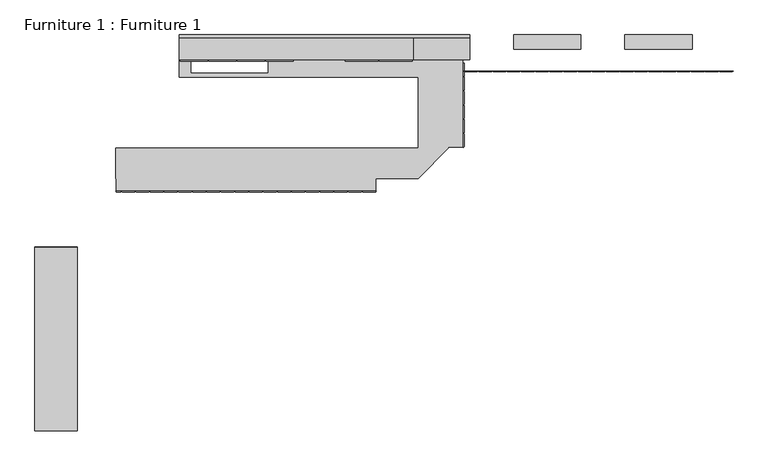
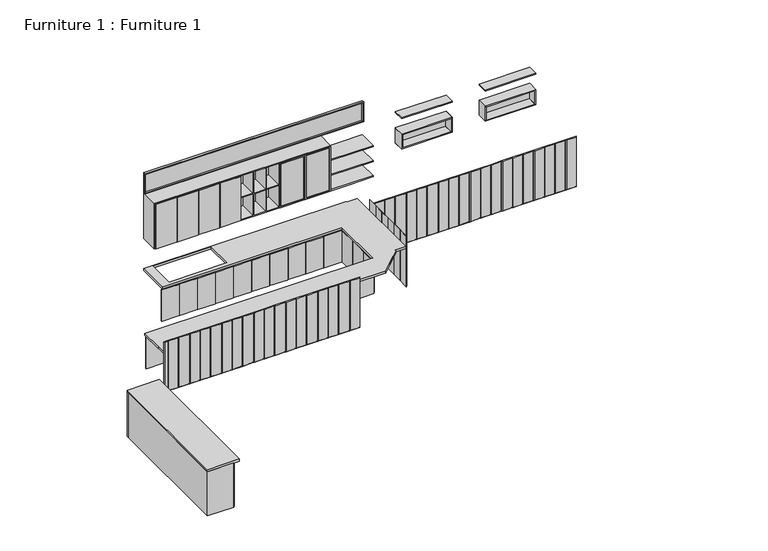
"""IFC4 building model written with IfcOpenShell, lengths in millimetres: furniture geometry, Furniture 1 : Furniture 1."""

from ifc_helpers import new_model, si_unit, frame, origin, origin_with_axes, place, context, project, spatial, polyline, outline, extrude, faceted_brep, source, transform, mapped, element, save


def furniture_1_furniture_1_1562d1c4(model_context):
    return source(origin(), model_context, "Body", "SolidModel", [
        extrude(outline(polyline([(950.6769044, 2299.760891), (4750.6769044, 2299.760891), (4750.6769044, 2289.0537842), (4950.6769044, 2289.0537842), (4950.6769044, 711.3662005), (4750.6769044, 711.3662005), (4750.6769044, 699.760891), (4321.5751071, 270.6590937), (3720.6769044, 270.6590937), (3720.6769044, 100.6590937), (60.6769044, 100.6590937), (60.6769044, 270.6590937), (50.6769044, 270.6590937), (50.6769044, 700.6590937), (4320.6769044, 700.6590937), (4320.6769044, 1699.760891), (950.6769044, 1699.760891), (950.6769044, 2299.760891)]), holes=[polyline([(1121.8993478, 2284.060891), (1121.8993478, 1769.060891), (2201.8993478, 1769.060891), (2201.8993478, 2284.060891), (1121.8993478, 2284.060891)])]), frame((0.0, 0.0, 760.0), z_axis=(0.0, 0.0, 1.0), x_axis=(1.0, 0.0, 0.0)), (0.0, 0.0, 1.0), 40.0),
        extrude(outline(polyline([(5030.6769044, 2289.760891), (970.6769044, 2289.760891), (970.6769044, 2299.760891), (5030.6769044, 2299.760891), (5030.6769044, 2289.760891)])), frame((0.0, 0.0, 2320.0), z_axis=(0.0, 0.0, 1.0), x_axis=(1.0, 0.0, 0.0)), (0.0, 0.0, 1.0), 360.0),
        extrude(outline(polyline([(2300.0, 950.6769044), (2300.0, 5050.6769044), (2700.0, 5050.6769044), (2700.0, 950.6769044), (2300.0, 950.6769044)]), holes=[polyline([(2680.0, 970.6769044), (2680.0, 5030.6769044), (2320.0, 5030.6769044), (2320.0, 970.6769044), (2680.0, 970.6769044)])]), frame((0.0, 2259.760891, 0.0), z_axis=(0.0, 1.0, 0.0), x_axis=(0.0, 0.0, 1.0)), (0.0, 0.0, 1.0), 40.0),
        extrude(outline(polyline([(6600.6769044, 2279.760891), (5690.6769044, 2279.760891), (5690.6769044, 2299.760891), (6600.6769044, 2299.760891), (6600.6769044, 2279.760891)])), frame((0.0, 0.0, 1660.0), z_axis=(0.0, 0.0, 1.0), x_axis=(1.0, 0.0, 0.0)), (0.0, 0.0, 1.0), 260.0),
        extrude(outline(polyline([(8170.6769044, 2279.760891), (7260.6769044, 2279.760891), (7260.6769044, 2299.760891), (8170.6769044, 2299.760891), (8170.6769044, 2279.760891)])), frame((0.0, 0.0, 1660.0), z_axis=(0.0, 0.0, 1.0), x_axis=(1.0, 0.0, 0.0)), (0.0, 0.0, 1.0), 260.0),
        faceted_brep([(5159.9697976, 1779.760891, 10.0), (5159.9697976, 1779.760891, 990.0), (4979.9697976, 1779.760891, 990.0), (4979.9697976, 1779.760891, 10.0), (5169.9697976, 1789.760891, 0.0), (4969.9697976, 1789.760891, 0.0), (4969.9697976, 1789.760891, 1000.0), (5169.9697976, 1789.760891, 1000.0)], [[[0, 1, 2, 3]], [[4, 5, 6, 7]], [[4, 7, 1, 0]], [[7, 6, 2, 1]], [[6, 5, 3, 2]], [[5, 4, 0, 3]]]),
        faceted_brep([(5359.9697976, 1779.760891, 10.0), (5359.9697976, 1779.760891, 990.0), (5179.9697976, 1779.760891, 990.0), (5179.9697976, 1779.760891, 10.0), (5369.9697976, 1789.760891, 0.0), (5169.9697976, 1789.760891, 0.0), (5169.9697976, 1789.760891, 1000.0), (5369.9697976, 1789.760891, 1000.0)], [[[0, 1, 2, 3]], [[4, 5, 6, 7]], [[4, 7, 1, 0]], [[7, 6, 2, 1]], [[6, 5, 3, 2]], [[5, 4, 0, 3]]]),
        faceted_brep([(5559.9697976, 1779.760891, 10.0), (5559.9697976, 1779.760891, 990.0), (5379.9697976, 1779.760891, 990.0), (5379.9697976, 1779.760891, 10.0), (5569.9697976, 1789.760891, 0.0), (5369.9697976, 1789.760891, 0.0), (5369.9697976, 1789.760891, 1000.0), (5569.9697976, 1789.760891, 1000.0)], [[[0, 1, 2, 3]], [[4, 5, 6, 7]], [[4, 7, 1, 0]], [[7, 6, 2, 1]], [[6, 5, 3, 2]], [[5, 4, 0, 3]]]),
        faceted_brep([(5759.9697976, 1779.760891, 10.0), (5759.9697976, 1779.760891, 990.0), (5579.9697976, 1779.760891, 990.0), (5579.9697976, 1779.760891, 10.0), (5769.9697976, 1789.760891, 0.0), (5569.9697976, 1789.760891, 0.0), (5569.9697976, 1789.760891, 1000.0), (5769.9697976, 1789.760891, 1000.0)], [[[0, 1, 2, 3]], [[4, 5, 6, 7]], [[4, 7, 1, 0]], [[7, 6, 2, 1]], [[6, 5, 3, 2]], [[5, 4, 0, 3]]]),
        faceted_brep([(5959.9697976, 1779.760891, 10.0), (5959.9697976, 1779.760891, 990.0), (5779.9697976, 1779.760891, 990.0), (5779.9697976, 1779.760891, 10.0), (5969.9697976, 1789.760891, 0.0), (5769.9697976, 1789.760891, 0.0), (5769.9697976, 1789.760891, 1000.0), (5969.9697976, 1789.760891, 1000.0)], [[[0, 1, 2, 3]], [[4, 5, 6, 7]], [[4, 7, 1, 0]], [[7, 6, 2, 1]], [[6, 5, 3, 2]], [[5, 4, 0, 3]]]),
        faceted_brep([(6159.9697976, 1779.760891, 10.0), (6159.9697976, 1779.760891, 990.0), (5979.9697976, 1779.760891, 990.0), (5979.9697976, 1779.760891, 10.0), (6169.9697976, 1789.760891, 0.0), (5969.9697976, 1789.760891, 0.0), (5969.9697976, 1789.760891, 1000.0), (6169.9697976, 1789.760891, 1000.0)], [[[0, 1, 2, 3]], [[4, 5, 6, 7]], [[4, 7, 1, 0]], [[7, 6, 2, 1]], [[6, 5, 3, 2]], [[5, 4, 0, 3]]]),
        faceted_brep([(6359.9697976, 1779.760891, 10.0), (6359.9697976, 1779.760891, 990.0), (6179.9697976, 1779.760891, 990.0), (6179.9697976, 1779.760891, 10.0), (6369.9697976, 1789.760891, 0.0), (6169.9697976, 1789.760891, 0.0), (6169.9697976, 1789.760891, 1000.0), (6369.9697976, 1789.760891, 1000.0)], [[[0, 1, 2, 3]], [[4, 5, 6, 7]], [[4, 7, 1, 0]], [[7, 6, 2, 1]], [[6, 5, 3, 2]], [[5, 4, 0, 3]]]),
        faceted_brep([(6559.9697976, 1779.760891, 10.0), (6559.9697976, 1779.760891, 990.0), (6379.9697976, 1779.760891, 990.0), (6379.9697976, 1779.760891, 10.0), (6569.9697976, 1789.760891, 0.0), (6369.9697976, 1789.760891, 0.0), (6369.9697976, 1789.760891, 1000.0), (6569.9697976, 1789.760891, 1000.0)], [[[0, 1, 2, 3]], [[4, 5, 6, 7]], [[4, 7, 1, 0]], [[7, 6, 2, 1]], [[6, 5, 3, 2]], [[5, 4, 0, 3]]]),
        faceted_brep([(6759.9697976, 1779.760891, 10.0), (6759.9697976, 1779.760891, 990.0), (6579.9697976, 1779.760891, 990.0), (6579.9697976, 1779.760891, 10.0), (6769.9697976, 1789.760891, 0.0), (6569.9697976, 1789.760891, 0.0), (6569.9697976, 1789.760891, 1000.0), (6769.9697976, 1789.760891, 1000.0)], [[[0, 1, 2, 3]], [[4, 5, 6, 7]], [[4, 7, 1, 0]], [[7, 6, 2, 1]], [[6, 5, 3, 2]], [[5, 4, 0, 3]]]),
        faceted_brep([(6959.9697976, 1779.760891, 10.0), (6959.9697976, 1779.760891, 990.0), (6779.9697976, 1779.760891, 990.0), (6779.9697976, 1779.760891, 10.0), (6969.9697976, 1789.760891, 0.0), (6769.9697976, 1789.760891, 0.0), (6769.9697976, 1789.760891, 1000.0), (6969.9697976, 1789.760891, 1000.0)], [[[0, 1, 2, 3]], [[4, 5, 6, 7]], [[4, 7, 1, 0]], [[7, 6, 2, 1]], [[6, 5, 3, 2]], [[5, 4, 0, 3]]]),
        faceted_brep([(7159.9697976, 1779.760891, 10.0), (7159.9697976, 1779.760891, 990.0), (6979.9697976, 1779.760891, 990.0), (6979.9697976, 1779.760891, 10.0), (7169.9697976, 1789.760891, 0.0), (6969.9697976, 1789.760891, 0.0), (6969.9697976, 1789.760891, 1000.0), (7169.9697976, 1789.760891, 1000.0)], [[[0, 1, 2, 3]], [[4, 5, 6, 7]], [[4, 7, 1, 0]], [[7, 6, 2, 1]], [[6, 5, 3, 2]], [[5, 4, 0, 3]]]),
        faceted_brep([(7359.9697976, 1779.760891, 10.0), (7359.9697976, 1779.760891, 990.0), (7179.9697976, 1779.760891, 990.0), (7179.9697976, 1779.760891, 10.0), (7369.9697976, 1789.760891, 0.0), (7169.9697976, 1789.760891, 0.0), (7169.9697976, 1789.760891, 1000.0), (7369.9697976, 1789.760891, 1000.0)], [[[0, 1, 2, 3]], [[4, 5, 6, 7]], [[4, 7, 1, 0]], [[7, 6, 2, 1]], [[6, 5, 3, 2]], [[5, 4, 0, 3]]]),
        faceted_brep([(7559.9697976, 1779.760891, 10.0), (7559.9697976, 1779.760891, 990.0), (7379.9697976, 1779.760891, 990.0), (7379.9697976, 1779.760891, 10.0), (7569.9697976, 1789.760891, 0.0), (7369.9697976, 1789.760891, 0.0), (7369.9697976, 1789.760891, 1000.0), (7569.9697976, 1789.760891, 1000.0)], [[[0, 1, 2, 3]], [[4, 5, 6, 7]], [[4, 7, 1, 0]], [[7, 6, 2, 1]], [[6, 5, 3, 2]], [[5, 4, 0, 3]]]),
        faceted_brep([(7759.9697976, 1779.760891, 10.0), (7759.9697976, 1779.760891, 990.0), (7579.9697976, 1779.760891, 990.0), (7579.9697976, 1779.760891, 10.0), (7769.9697976, 1789.760891, 0.0), (7569.9697976, 1789.760891, 0.0), (7569.9697976, 1789.760891, 1000.0), (7769.9697976, 1789.760891, 1000.0)], [[[0, 1, 2, 3]], [[4, 5, 6, 7]], [[4, 7, 1, 0]], [[7, 6, 2, 1]], [[6, 5, 3, 2]], [[5, 4, 0, 3]]]),
        faceted_brep([(7959.9697976, 1779.760891, 10.0), (7959.9697976, 1779.760891, 990.0), (7779.9697976, 1779.760891, 990.0), (7779.9697976, 1779.760891, 10.0), (7969.9697976, 1789.760891, 0.0), (7769.9697976, 1789.760891, 0.0), (7769.9697976, 1789.760891, 1000.0), (7969.9697976, 1789.760891, 1000.0)], [[[0, 1, 2, 3]], [[4, 5, 6, 7]], [[4, 7, 1, 0]], [[7, 6, 2, 1]], [[6, 5, 3, 2]], [[5, 4, 0, 3]]]),
        faceted_brep([(8159.9697976, 1779.760891, 10.0), (8159.9697976, 1779.760891, 990.0), (7979.9697976, 1779.760891, 990.0), (7979.9697976, 1779.760891, 10.0), (8169.9697976, 1789.760891, 0.0), (7969.9697976, 1789.760891, 0.0), (7969.9697976, 1789.760891, 1000.0), (8169.9697976, 1789.760891, 1000.0)], [[[0, 1, 2, 3]], [[4, 5, 6, 7]], [[4, 7, 1, 0]], [[7, 6, 2, 1]], [[6, 5, 3, 2]], [[5, 4, 0, 3]]]),
        faceted_brep([(8359.9697976, 1779.760891, 10.0), (8359.9697976, 1779.760891, 990.0), (8179.9697976, 1779.760891, 990.0), (8179.9697976, 1779.760891, 10.0), (8369.9697976, 1789.760891, 0.0), (8169.9697976, 1789.760891, 0.0), (8169.9697976, 1789.760891, 1000.0), (8369.9697976, 1789.760891, 1000.0)], [[[0, 1, 2, 3]], [[4, 5, 6, 7]], [[4, 7, 1, 0]], [[7, 6, 2, 1]], [[6, 5, 3, 2]], [[5, 4, 0, 3]]]),
        faceted_brep([(8559.9697976, 1779.760891, 10.0), (8559.9697976, 1779.760891, 990.0), (8379.9697976, 1779.760891, 990.0), (8379.9697976, 1779.760891, 10.0), (8569.9697976, 1789.760891, 0.0), (8369.9697976, 1789.760891, 0.0), (8369.9697976, 1789.760891, 1000.0), (8569.9697976, 1789.760891, 1000.0)], [[[0, 1, 2, 3]], [[4, 5, 6, 7]], [[4, 7, 1, 0]], [[7, 6, 2, 1]], [[6, 5, 3, 2]], [[5, 4, 0, 3]]]),
        extrude(outline(polyline([(1660.0, 5691.3840111), (1640.0, 5671.3840111), (1640.0, 6619.9697976), (1660.0, 6599.9697976), (1660.0, 5691.3840111)])), frame((0.0, 2099.760891, 0.0), z_axis=(0.0, 1.0, 0.0), x_axis=(0.0, 0.0, 1.0)), (0.0, 0.0, 1.0), 200.0),
        extrude(outline(polyline([(1640.7071068, 5670.6769044), (1660.7071068, 5690.6769044), (1919.2928932, 5690.6769044), (1939.2928932, 5670.6769044), (1640.7071068, 5670.6769044)])), frame((0.0, 2099.760891, 0.0), z_axis=(0.0, 1.0, 0.0), x_axis=(0.0, 0.0, 1.0)), (0.0, 0.0, 1.0), 200.0),
        extrude(outline(polyline([(1640.7071068, 6620.6769044), (1939.2928932, 6620.6769044), (1919.2928932, 6600.6769044), (1660.7071068, 6600.6769044), (1640.7071068, 6620.6769044)])), frame((0.0, 2099.760891, 0.0), z_axis=(0.0, 1.0, 0.0), x_axis=(0.0, 0.0, 1.0)), (0.0, 0.0, 1.0), 200.0),
        extrude(outline(polyline([(1920.0, 5691.3840111), (1920.0, 6599.9697976), (1940.0, 6619.9697976), (1940.0, 5671.3840111), (1920.0, 5691.3840111)])), frame((0.0, 2099.760891, 0.0), z_axis=(0.0, 1.0, 0.0), x_axis=(0.0, 0.0, 1.0)), (0.0, 0.0, 1.0), 200.0),
        extrude(outline(polyline([(6620.6769044, 2099.760891), (5670.6769044, 2099.760891), (5670.6769044, 2299.760891), (6620.6769044, 2299.760891), (6620.6769044, 2099.760891)])), frame((0.0, 0.0, 2240.0), z_axis=(0.0, 0.0, 1.0), x_axis=(1.0, 0.0, 0.0)), (0.0, 0.0, 1.0), 20.0),
        extrude(outline(polyline([(1660.0, 7261.3840111), (1640.0, 7241.3840111), (1640.0, 8189.9697976), (1660.0, 8169.9697976), (1660.0, 7261.3840111)])), frame((0.0, 2099.760891, 0.0), z_axis=(0.0, 1.0, 0.0), x_axis=(0.0, 0.0, 1.0)), (0.0, 0.0, 1.0), 200.0),
        extrude(outline(polyline([(1640.7071068, 7240.6769044), (1660.7071068, 7260.6769044), (1919.2928932, 7260.6769044), (1939.2928932, 7240.6769044), (1640.7071068, 7240.6769044)])), frame((0.0, 2099.760891, 0.0), z_axis=(0.0, 1.0, 0.0), x_axis=(0.0, 0.0, 1.0)), (0.0, 0.0, 1.0), 200.0),
        extrude(outline(polyline([(1640.7071068, 8190.6769044), (1939.2928932, 8190.6769044), (1919.2928932, 8170.6769044), (1660.7071068, 8170.6769044), (1640.7071068, 8190.6769044)])), frame((0.0, 2099.760891, 0.0), z_axis=(0.0, 1.0, 0.0), x_axis=(0.0, 0.0, 1.0)), (0.0, 0.0, 1.0), 200.0),
        extrude(outline(polyline([(1920.0, 7261.3840111), (1920.0, 8169.9697976), (1940.0, 8189.9697976), (1940.0, 7241.3840111), (1920.0, 7261.3840111)])), frame((0.0, 2099.760891, 0.0), z_axis=(0.0, 1.0, 0.0), x_axis=(0.0, 0.0, 1.0)), (0.0, 0.0, 1.0), 200.0),
        extrude(outline(polyline([(8190.6769044, 2099.760891), (7240.6769044, 2099.760891), (7240.6769044, 2299.760891), (8190.6769044, 2299.760891), (8190.6769044, 2099.760891)])), frame((0.0, 0.0, 2240.0), z_axis=(0.0, 0.0, 1.0), x_axis=(1.0, 0.0, 0.0)), (0.0, 0.0, 1.0), 20.0),
        extrude(outline(polyline([(4330.6769044, 1359.760891), (4330.6769044, 1699.760891), (4350.6769044, 1699.760891), (4350.6769044, 1359.760891), (4330.6769044, 1359.760891)])), frame((0.0, 0.0, 110.0), z_axis=(0.0, 0.0, 1.0), x_axis=(1.0, 0.0, 0.0)), (0.0, 0.0, 1.0), 620.0),
        extrude(outline(polyline([(4330.6769044, 700.6590937), (4330.6769044, 999.760891), (4350.6769044, 999.760891), (4350.6769044, 700.6590937), (4330.6769044, 700.6590937)])), frame((0.0, 0.0, 110.0), z_axis=(0.0, 0.0, 1.0), x_axis=(1.0, 0.0, 0.0)), (0.0, 0.0, 1.0), 620.0),
        extrude(outline(polyline([(4330.6769044, 1009.760891), (4330.6769044, 1349.760891), (4350.6769044, 1349.760891), (4350.6769044, 1009.760891), (4330.6769044, 1009.760891)])), frame((0.0, 0.0, 110.0), z_axis=(0.0, 0.0, 1.0), x_axis=(1.0, 0.0, 0.0)), (0.0, 0.0, 1.0), 620.0),
        extrude(outline(polyline([(60.6769044, 690.6590937), (388.3692121, 690.6590937), (388.3692121, 670.6590937), (60.6769044, 670.6590937), (60.6769044, 690.6590937)])), frame((0.0, 0.0, 110.0), z_axis=(0.0, 0.0, 1.0), x_axis=(1.0, 0.0, 0.0)), (0.0, 0.0, 1.0), 620.0),
        extrude(outline(polyline([(4002.9845967, 690.6590937), (4320.6769044, 690.6590937), (4320.6769044, 670.6590937), (4002.9845967, 670.6590937), (4002.9845967, 690.6590937)])), frame((0.0, 0.0, 110.0), z_axis=(0.0, 0.0, 1.0), x_axis=(1.0, 0.0, 0.0)), (0.0, 0.0, 1.0), 620.0),
        extrude(outline(polyline([(3347.5999813, 690.6590937), (3665.292289, 690.6590937), (3665.292289, 670.6590937), (3347.5999813, 670.6590937), (3347.5999813, 690.6590937)])), frame((0.0, 0.0, 110.0), z_axis=(0.0, 0.0, 1.0), x_axis=(1.0, 0.0, 0.0)), (0.0, 0.0, 1.0), 620.0),
        extrude(outline(polyline([(3675.292289, 690.6590937), (3992.9845967, 690.6590937), (3992.9845967, 670.6590937), (3675.292289, 670.6590937), (3675.292289, 690.6590937)])), frame((0.0, 0.0, 110.0), z_axis=(0.0, 0.0, 1.0), x_axis=(1.0, 0.0, 0.0)), (0.0, 0.0, 1.0), 620.0),
        extrude(outline(polyline([(3019.9076736, 690.6590937), (3337.5999813, 690.6590937), (3337.5999813, 670.6590937), (3019.9076736, 670.6590937), (3019.9076736, 690.6590937)])), frame((0.0, 0.0, 110.0), z_axis=(0.0, 0.0, 1.0), x_axis=(1.0, 0.0, 0.0)), (0.0, 0.0, 1.0), 620.0),
        extrude(outline(polyline([(2692.2153659, 690.6590937), (3009.9076736, 690.6590937), (3009.9076736, 670.6590937), (2692.2153659, 670.6590937), (2692.2153659, 690.6590937)])), frame((0.0, 0.0, 110.0), z_axis=(0.0, 0.0, 1.0), x_axis=(1.0, 0.0, 0.0)), (0.0, 0.0, 1.0), 620.0),
        extrude(outline(polyline([(2364.5230582, 690.6590937), (2682.2153659, 690.6590937), (2682.2153659, 670.6590937), (2364.5230582, 670.6590937), (2364.5230582, 690.6590937)])), frame((0.0, 0.0, 110.0), z_axis=(0.0, 0.0, 1.0), x_axis=(1.0, 0.0, 0.0)), (0.0, 0.0, 1.0), 620.0),
        extrude(outline(polyline([(2036.8307505, 690.6590937), (2354.5230582, 690.6590937), (2354.5230582, 670.6590937), (2036.8307505, 670.6590937), (2036.8307505, 690.6590937)])), frame((0.0, 0.0, 110.0), z_axis=(0.0, 0.0, 1.0), x_axis=(1.0, 0.0, 0.0)), (0.0, 0.0, 1.0), 620.0),
        extrude(outline(polyline([(1709.1384428, 690.6590937), (2026.8307505, 690.6590937), (2026.8307505, 670.6590937), (1709.1384428, 670.6590937), (1709.1384428, 690.6590937)])), frame((0.0, 0.0, 110.0), z_axis=(0.0, 0.0, 1.0), x_axis=(1.0, 0.0, 0.0)), (0.0, 0.0, 1.0), 620.0),
        extrude(outline(polyline([(1381.4461351, 690.6590937), (1699.1384428, 690.6590937), (1699.1384428, 670.6590937), (1381.4461351, 670.6590937), (1381.4461351, 690.6590937)])), frame((0.0, 0.0, 110.0), z_axis=(0.0, 0.0, 1.0), x_axis=(1.0, 0.0, 0.0)), (0.0, 0.0, 1.0), 620.0),
        extrude(outline(polyline([(1053.7538274, 690.6590937), (1371.4461351, 690.6590937), (1371.4461351, 670.6590937), (1053.7538274, 670.6590937), (1053.7538274, 690.6590937)])), frame((0.0, 0.0, 110.0), z_axis=(0.0, 0.0, 1.0), x_axis=(1.0, 0.0, 0.0)), (0.0, 0.0, 1.0), 620.0),
        extrude(outline(polyline([(726.0615197, 690.6590937), (1043.7538274, 690.6590937), (1043.7538274, 670.6590937), (726.0615197, 670.6590937), (726.0615197, 690.6590937)])), frame((0.0, 0.0, 110.0), z_axis=(0.0, 0.0, 1.0), x_axis=(1.0, 0.0, 0.0)), (0.0, 0.0, 1.0), 620.0),
        extrude(outline(polyline([(398.3692121, 690.6590937), (716.0615197, 690.6590937), (716.0615197, 670.6590937), (398.3692121, 670.6590937), (398.3692121, 690.6590937)])), frame((0.0, 0.0, 110.0), z_axis=(0.0, 0.0, 1.0), x_axis=(1.0, 0.0, 0.0)), (0.0, 0.0, 1.0), 620.0),
        extrude(outline(polyline([(1277.6769044, 1709.760891), (950.6769044, 1709.760891), (950.6769044, 1729.760891), (1277.6769044, 1729.760891), (1277.6769044, 1709.760891)])), frame((0.0, 0.0, 110.0), z_axis=(0.0, 0.0, 1.0), x_axis=(1.0, 0.0, 0.0)), (0.0, 0.0, 1.0), 620.0),
        extrude(outline(polyline([(4320.6769044, 1709.760891), (3983.6769044, 1709.760891), (3983.6769044, 1729.760891), (4320.6769044, 1729.760891), (4320.6769044, 1709.760891)])), frame((0.0, 0.0, 110.0), z_axis=(0.0, 0.0, 1.0), x_axis=(1.0, 0.0, 0.0)), (0.0, 0.0, 1.0), 620.0),
        extrude(outline(polyline([(1614.6769044, 1709.760891), (1287.6769044, 1709.760891), (1287.6769044, 1729.760891), (1614.6769044, 1729.760891), (1614.6769044, 1709.760891)])), frame((0.0, 0.0, 110.0), z_axis=(0.0, 0.0, 1.0), x_axis=(1.0, 0.0, 0.0)), (0.0, 0.0, 1.0), 620.0),
        extrude(outline(polyline([(1951.6769044, 1709.760891), (1624.6769044, 1709.760891), (1624.6769044, 1729.760891), (1951.6769044, 1729.760891), (1951.6769044, 1709.760891)])), frame((0.0, 0.0, 110.0), z_axis=(0.0, 0.0, 1.0), x_axis=(1.0, 0.0, 0.0)), (0.0, 0.0, 1.0), 620.0),
        extrude(outline(polyline([(2288.6769044, 1709.760891), (1961.6769044, 1709.760891), (1961.6769044, 1729.760891), (2288.6769044, 1729.760891), (2288.6769044, 1709.760891)])), frame((0.0, 0.0, 110.0), z_axis=(0.0, 0.0, 1.0), x_axis=(1.0, 0.0, 0.0)), (0.0, 0.0, 1.0), 620.0),
        extrude(outline(polyline([(2625.6769044, 1709.760891), (2298.6769044, 1709.760891), (2298.6769044, 1729.760891), (2625.6769044, 1729.760891), (2625.6769044, 1709.760891)])), frame((0.0, 0.0, 110.0), z_axis=(0.0, 0.0, 1.0), x_axis=(1.0, 0.0, 0.0)), (0.0, 0.0, 1.0), 620.0),
        extrude(outline(polyline([(2962.6769044, 1709.760891), (2635.6769044, 1709.760891), (2635.6769044, 1729.760891), (2962.6769044, 1729.760891), (2962.6769044, 1709.760891)])), frame((0.0, 0.0, 110.0), z_axis=(0.0, 0.0, 1.0), x_axis=(1.0, 0.0, 0.0)), (0.0, 0.0, 1.0), 620.0),
        extrude(outline(polyline([(3309.6769044, 1709.760891), (2972.6769044, 1709.760891), (2972.6769044, 1729.760891), (3309.6769044, 1729.760891), (3309.6769044, 1709.760891)])), frame((0.0, 0.0, 110.0), z_axis=(0.0, 0.0, 1.0), x_axis=(1.0, 0.0, 0.0)), (0.0, 0.0, 1.0), 620.0),
        extrude(outline(polyline([(3973.6769044, 1709.760891), (3646.6769044, 1709.760891), (3646.6769044, 1729.760891), (3973.6769044, 1729.760891), (3973.6769044, 1709.760891)])), frame((0.0, 0.0, 110.0), z_axis=(0.0, 0.0, 1.0), x_axis=(1.0, 0.0, 0.0)), (0.0, 0.0, 1.0), 620.0),
        extrude(outline(polyline([(3636.6769044, 1709.760891), (3319.6769044, 1709.760891), (3319.6769044, 1729.760891), (3636.6769044, 1729.760891), (3636.6769044, 1709.760891)])), frame((0.0, 0.0, 110.0), z_axis=(0.0, 0.0, 1.0), x_axis=(1.0, 0.0, 0.0)), (0.0, 0.0, 1.0), 620.0),
        faceted_brep([(120.6769044, 80.6590937, 10.0), (120.6769044, 80.6590937, 990.0), (60.6769044, 80.6590937, 990.0), (60.6769044, 80.6590937, 10.0), (130.6769044, 90.6590937, 0.0), (50.6769044, 90.6590937, 0.0), (50.6769044, 90.6590937, 1000.0), (130.6769044, 90.6590937, 1000.0)], [[[0, 1, 2, 3]], [[4, 5, 6, 7]], [[4, 7, 1, 0]], [[7, 6, 2, 1]], [[6, 5, 3, 2]], [[5, 4, 0, 3]]]),
        faceted_brep([(320.6769044, 80.6590937, 10.0), (320.6769044, 80.6590937, 990.0), (140.6769044, 80.6590937, 990.0), (140.6769044, 80.6590937, 10.0), (330.6769044, 90.6590937, 0.0), (130.6769044, 90.6590937, 0.0), (130.6769044, 90.6590937, 1000.0), (330.6769044, 90.6590937, 1000.0)], [[[0, 1, 2, 3]], [[4, 5, 6, 7]], [[4, 7, 1, 0]], [[7, 6, 2, 1]], [[6, 5, 3, 2]], [[5, 4, 0, 3]]]),
        faceted_brep([(520.6769044, 80.6590937, 10.0), (520.6769044, 80.6590937, 990.0), (340.6769044, 80.6590937, 990.0), (340.6769044, 80.6590937, 10.0), (530.6769044, 90.6590937, 0.0), (330.6769044, 90.6590937, 0.0), (330.6769044, 90.6590937, 1000.0), (530.6769044, 90.6590937, 1000.0)], [[[0, 1, 2, 3]], [[4, 5, 6, 7]], [[4, 7, 1, 0]], [[7, 6, 2, 1]], [[6, 5, 3, 2]], [[5, 4, 0, 3]]]),
        faceted_brep([(720.6769044, 80.6590937, 10.0), (720.6769044, 80.6590937, 990.0), (540.6769044, 80.6590937, 990.0), (540.6769044, 80.6590937, 10.0), (730.6769044, 90.6590937, 0.0), (530.6769044, 90.6590937, 0.0), (530.6769044, 90.6590937, 1000.0), (730.6769044, 90.6590937, 1000.0)], [[[0, 1, 2, 3]], [[4, 5, 6, 7]], [[4, 7, 1, 0]], [[7, 6, 2, 1]], [[6, 5, 3, 2]], [[5, 4, 0, 3]]]),
        faceted_brep([(920.6769044, 80.6590937, 10.0), (920.6769044, 80.6590937, 990.0), (740.6769044, 80.6590937, 990.0), (740.6769044, 80.6590937, 10.0), (930.6769044, 90.6590937, 0.0), (730.6769044, 90.6590937, 0.0), (730.6769044, 90.6590937, 1000.0), (930.6769044, 90.6590937, 1000.0)], [[[0, 1, 2, 3]], [[4, 5, 6, 7]], [[4, 7, 1, 0]], [[7, 6, 2, 1]], [[6, 5, 3, 2]], [[5, 4, 0, 3]]]),
        faceted_brep([(1120.6769044, 80.6590937, 10.0), (1120.6769044, 80.6590937, 990.0), (940.6769044, 80.6590937, 990.0), (940.6769044, 80.6590937, 10.0), (1130.6769044, 90.6590937, 0.0), (930.6769044, 90.6590937, 0.0), (930.6769044, 90.6590937, 1000.0), (1130.6769044, 90.6590937, 1000.0)], [[[0, 1, 2, 3]], [[4, 5, 6, 7]], [[4, 7, 1, 0]], [[7, 6, 2, 1]], [[6, 5, 3, 2]], [[5, 4, 0, 3]]]),
        faceted_brep([(1320.6769044, 80.6590937, 10.0), (1320.6769044, 80.6590937, 990.0), (1140.6769044, 80.6590937, 990.0), (1140.6769044, 80.6590937, 10.0), (1330.6769044, 90.6590937, 0.0), (1130.6769044, 90.6590937, 0.0), (1130.6769044, 90.6590937, 1000.0), (1330.6769044, 90.6590937, 1000.0)], [[[0, 1, 2, 3]], [[4, 5, 6, 7]], [[4, 7, 1, 0]], [[7, 6, 2, 1]], [[6, 5, 3, 2]], [[5, 4, 0, 3]]]),
        faceted_brep([(1520.6769044, 80.6590937, 10.0), (1520.6769044, 80.6590937, 990.0), (1340.6769044, 80.6590937, 990.0), (1340.6769044, 80.6590937, 10.0), (1530.6769044, 90.6590937, 0.0), (1330.6769044, 90.6590937, 0.0), (1330.6769044, 90.6590937, 1000.0), (1530.6769044, 90.6590937, 1000.0)], [[[0, 1, 2, 3]], [[4, 5, 6, 7]], [[4, 7, 1, 0]], [[7, 6, 2, 1]], [[6, 5, 3, 2]], [[5, 4, 0, 3]]]),
        faceted_brep([(1720.6769044, 80.6590937, 10.0), (1720.6769044, 80.6590937, 990.0), (1540.6769044, 80.6590937, 990.0), (1540.6769044, 80.6590937, 10.0), (1730.6769044, 90.6590937, 0.0), (1530.6769044, 90.6590937, 0.0), (1530.6769044, 90.6590937, 1000.0), (1730.6769044, 90.6590937, 1000.0)], [[[0, 1, 2, 3]], [[4, 5, 6, 7]], [[4, 7, 1, 0]], [[7, 6, 2, 1]], [[6, 5, 3, 2]], [[5, 4, 0, 3]]]),
        faceted_brep([(1920.6769044, 80.6590937, 10.0), (1920.6769044, 80.6590937, 990.0), (1740.6769044, 80.6590937, 990.0), (1740.6769044, 80.6590937, 10.0), (1930.6769044, 90.6590937, 0.0), (1730.6769044, 90.6590937, 0.0), (1730.6769044, 90.6590937, 1000.0), (1930.6769044, 90.6590937, 1000.0)], [[[0, 1, 2, 3]], [[4, 5, 6, 7]], [[4, 7, 1, 0]], [[7, 6, 2, 1]], [[6, 5, 3, 2]], [[5, 4, 0, 3]]]),
        faceted_brep([(2120.6769044, 80.6590937, 10.0), (2120.6769044, 80.6590937, 990.0), (1940.6769044, 80.6590937, 990.0), (1940.6769044, 80.6590937, 10.0), (2130.6769044, 90.6590937, 0.0), (1930.6769044, 90.6590937, 0.0), (1930.6769044, 90.6590937, 1000.0), (2130.6769044, 90.6590937, 1000.0)], [[[0, 1, 2, 3]], [[4, 5, 6, 7]], [[4, 7, 1, 0]], [[7, 6, 2, 1]], [[6, 5, 3, 2]], [[5, 4, 0, 3]]]),
        faceted_brep([(2320.6769044, 80.6590937, 10.0), (2320.6769044, 80.6590937, 990.0), (2140.6769044, 80.6590937, 990.0), (2140.6769044, 80.6590937, 10.0), (2330.6769044, 90.6590937, 0.0), (2130.6769044, 90.6590937, 0.0), (2130.6769044, 90.6590937, 1000.0), (2330.6769044, 90.6590937, 1000.0)], [[[0, 1, 2, 3]], [[4, 5, 6, 7]], [[4, 7, 1, 0]], [[7, 6, 2, 1]], [[6, 5, 3, 2]], [[5, 4, 0, 3]]]),
        faceted_brep([(2520.6769044, 80.6590937, 10.0), (2520.6769044, 80.6590937, 990.0), (2340.6769044, 80.6590937, 990.0), (2340.6769044, 80.6590937, 10.0), (2530.6769044, 90.6590937, 0.0), (2330.6769044, 90.6590937, 0.0), (2330.6769044, 90.6590937, 1000.0), (2530.6769044, 90.6590937, 1000.0)], [[[0, 1, 2, 3]], [[4, 5, 6, 7]], [[4, 7, 1, 0]], [[7, 6, 2, 1]], [[6, 5, 3, 2]], [[5, 4, 0, 3]]]),
        faceted_brep([(2720.6769044, 80.6590937, 10.0), (2720.6769044, 80.6590937, 990.0), (2540.6769044, 80.6590937, 990.0), (2540.6769044, 80.6590937, 10.0), (2730.6769044, 90.6590937, 0.0), (2530.6769044, 90.6590937, 0.0), (2530.6769044, 90.6590937, 1000.0), (2730.6769044, 90.6590937, 1000.0)], [[[0, 1, 2, 3]], [[4, 5, 6, 7]], [[4, 7, 1, 0]], [[7, 6, 2, 1]], [[6, 5, 3, 2]], [[5, 4, 0, 3]]]),
        faceted_brep([(2920.6769044, 80.6590937, 10.0), (2920.6769044, 80.6590937, 990.0), (2740.6769044, 80.6590937, 990.0), (2740.6769044, 80.6590937, 10.0), (2930.6769044, 90.6590937, 0.0), (2730.6769044, 90.6590937, 0.0), (2730.6769044, 90.6590937, 1000.0), (2930.6769044, 90.6590937, 1000.0)], [[[0, 1, 2, 3]], [[4, 5, 6, 7]], [[4, 7, 1, 0]], [[7, 6, 2, 1]], [[6, 5, 3, 2]], [[5, 4, 0, 3]]]),
        faceted_brep([(3120.6769044, 80.6590937, 10.0), (3120.6769044, 80.6590937, 990.0), (2940.6769044, 80.6590937, 990.0), (2940.6769044, 80.6590937, 10.0), (3130.6769044, 90.6590937, 0.0), (2930.6769044, 90.6590937, 0.0), (2930.6769044, 90.6590937, 1000.0), (3130.6769044, 90.6590937, 1000.0)], [[[0, 1, 2, 3]], [[4, 5, 6, 7]], [[4, 7, 1, 0]], [[7, 6, 2, 1]], [[6, 5, 3, 2]], [[5, 4, 0, 3]]]),
        faceted_brep([(3320.6769044, 80.6590937, 10.0), (3320.6769044, 80.6590937, 990.0), (3140.6769044, 80.6590937, 990.0), (3140.6769044, 80.6590937, 10.0), (3330.6769044, 90.6590937, 0.0), (3130.6769044, 90.6590937, 0.0), (3130.6769044, 90.6590937, 1000.0), (3330.6769044, 90.6590937, 1000.0)], [[[0, 1, 2, 3]], [[4, 5, 6, 7]], [[4, 7, 1, 0]], [[7, 6, 2, 1]], [[6, 5, 3, 2]], [[5, 4, 0, 3]]]),
        faceted_brep([(3520.6769044, 80.6590937, 10.0), (3520.6769044, 80.6590937, 990.0), (3340.6769044, 80.6590937, 990.0), (3340.6769044, 80.6590937, 10.0), (3530.6769044, 90.6590937, 0.0), (3330.6769044, 90.6590937, 0.0), (3330.6769044, 90.6590937, 1000.0), (3530.6769044, 90.6590937, 1000.0)], [[[0, 1, 2, 3]], [[4, 5, 6, 7]], [[4, 7, 1, 0]], [[7, 6, 2, 1]], [[6, 5, 3, 2]], [[5, 4, 0, 3]]]),
        faceted_brep([(3720.6769044, 80.6590937, 10.0), (3720.6769044, 80.6590937, 990.0), (3540.6769044, 80.6590937, 990.0), (3540.6769044, 80.6590937, 10.0), (3730.6769044, 90.6590937, 0.0), (3530.6769044, 90.6590937, 0.0), (3530.6769044, 90.6590937, 1000.0), (3730.6769044, 90.6590937, 1000.0)], [[[0, 1, 2, 3]], [[4, 5, 6, 7]], [[4, 7, 1, 0]], [[7, 6, 2, 1]], [[6, 5, 3, 2]], [[5, 4, 0, 3]]]),
        faceted_brep([(4970.6769044, 1899.760891, 10.0), (4970.6769044, 1899.760891, 990.0), (4970.6769044, 1719.760891, 990.0), (4970.6769044, 1719.760891, 10.0), (4960.6769044, 1909.760891, 0.0), (4960.6769044, 1709.760891, 0.0), (4960.6769044, 1709.760891, 1000.0), (4960.6769044, 1909.760891, 1000.0)], [[[0, 1, 2, 3]], [[4, 5, 6, 7]], [[4, 7, 1, 0]], [[7, 6, 2, 1]], [[6, 5, 3, 2]], [[5, 4, 0, 3]]]),
        faceted_brep([(8759.9697976, 1779.760891, 10.0), (8759.9697976, 1779.760891, 990.0), (8579.9697976, 1779.760891, 990.0), (8579.9697976, 1779.760891, 10.0), (8769.9697976, 1789.760891, 0.0), (8569.9697976, 1789.760891, 0.0), (8569.9697976, 1789.760891, 1000.0), (8769.9697976, 1789.760891, 1000.0)], [[[0, 1, 2, 3]], [[4, 5, 6, 7]], [[4, 7, 1, 0]], [[7, 6, 2, 1]], [[6, 5, 3, 2]], [[5, 4, 0, 3]]]),
        faceted_brep([(4970.6769044, 899.760891, 10.0), (4970.6769044, 899.760891, 990.0), (4970.6769044, 719.760891, 990.0), (4970.6769044, 719.760891, 10.0), (4960.6769044, 909.760891, 0.0), (4960.6769044, 709.760891, 0.0), (4960.6769044, 709.760891, 1000.0), (4960.6769044, 909.760891, 1000.0)], [[[0, 1, 2, 3]], [[4, 5, 6, 7]], [[4, 7, 1, 0]], [[7, 6, 2, 1]], [[6, 5, 3, 2]], [[5, 4, 0, 3]]]),
        faceted_brep([(4970.6769044, 1099.760891, 10.0), (4970.6769044, 1099.760891, 990.0), (4970.6769044, 919.760891, 990.0), (4970.6769044, 919.760891, 10.0), (4960.6769044, 1109.760891, 0.0), (4960.6769044, 909.760891, 0.0), (4960.6769044, 909.760891, 1000.0), (4960.6769044, 1109.760891, 1000.0)], [[[0, 1, 2, 3]], [[4, 5, 6, 7]], [[4, 7, 1, 0]], [[7, 6, 2, 1]], [[6, 5, 3, 2]], [[5, 4, 0, 3]]]),
        faceted_brep([(4970.6769044, 1299.760891, 10.0), (4970.6769044, 1299.760891, 990.0), (4970.6769044, 1119.760891, 990.0), (4970.6769044, 1119.760891, 10.0), (4960.6769044, 1309.760891, 0.0), (4960.6769044, 1109.760891, 0.0), (4960.6769044, 1109.760891, 1000.0), (4960.6769044, 1309.760891, 1000.0)], [[[0, 1, 2, 3]], [[4, 5, 6, 7]], [[4, 7, 1, 0]], [[7, 6, 2, 1]], [[6, 5, 3, 2]], [[5, 4, 0, 3]]]),
        faceted_brep([(4970.6769044, 1499.760891, 10.0), (4970.6769044, 1499.760891, 990.0), (4970.6769044, 1319.760891, 990.0), (4970.6769044, 1319.760891, 10.0), (4960.6769044, 1509.760891, 0.0), (4960.6769044, 1309.760891, 0.0), (4960.6769044, 1309.760891, 1000.0), (4960.6769044, 1509.760891, 1000.0)], [[[0, 1, 2, 3]], [[4, 5, 6, 7]], [[4, 7, 1, 0]], [[7, 6, 2, 1]], [[6, 5, 3, 2]], [[5, 4, 0, 3]]]),
        faceted_brep([(4970.6769044, 1699.760891, 10.0), (4970.6769044, 1699.760891, 990.0), (4970.6769044, 1519.760891, 990.0), (4970.6769044, 1519.760891, 10.0), (4960.6769044, 1709.760891, 0.0), (4960.6769044, 1509.760891, 0.0), (4960.6769044, 1509.760891, 1000.0), (4960.6769044, 1709.760891, 1000.0)], [[[0, 1, 2, 3]], [[4, 5, 6, 7]], [[4, 7, 1, 0]], [[7, 6, 2, 1]], [[6, 5, 3, 2]], [[5, 4, 0, 3]]]),
        faceted_brep([(-579.3230956, -750.239109, 10.0), (-579.3230956, -750.239109, 870.0), (-579.3230956, -890.239109, 870.0), (-579.3230956, -890.239109, 10.0), (-589.3230956, -740.239109, 0.0), (-589.3230956, -900.239109, 0.0), (-589.3230956, -900.239109, 880.0), (-589.3230956, -740.239109, 880.0)], [[[0, 1, 2, 3]], [[4, 5, 6, 7]], [[4, 7, 1, 0]], [[7, 6, 2, 1]], [[6, 5, 3, 2]], [[5, 4, 0, 3]]]),
        faceted_brep([(-579.3230956, -910.239109, 10.0), (-579.3230956, -910.239109, 870.0), (-579.3230956, -1090.239109, 870.0), (-579.3230956, -1090.239109, 10.0), (-589.3230956, -900.239109, 0.0), (-589.3230956, -1100.239109, 0.0), (-589.3230956, -1100.239109, 880.0), (-589.3230956, -900.239109, 880.0)], [[[0, 1, 2, 3]], [[4, 5, 6, 7]], [[4, 7, 1, 0]], [[7, 6, 2, 1]], [[6, 5, 3, 2]], [[5, 4, 0, 3]]]),
        faceted_brep([(-579.3230956, -1110.239109, 10.0), (-579.3230956, -1110.239109, 870.0), (-579.3230956, -1290.239109, 870.0), (-579.3230956, -1290.239109, 10.0), (-589.3230956, -1100.239109, 0.0), (-589.3230956, -1300.239109, 0.0), (-589.3230956, -1300.239109, 880.0), (-589.3230956, -1100.239109, 880.0)], [[[0, 1, 2, 3]], [[4, 5, 6, 7]], [[4, 7, 1, 0]], [[7, 6, 2, 1]], [[6, 5, 3, 2]], [[5, 4, 0, 3]]]),
        faceted_brep([(-579.3230956, -1310.239109, 10.0), (-579.3230956, -1310.239109, 870.0), (-579.3230956, -1490.239109, 870.0), (-579.3230956, -1490.239109, 10.0), (-589.3230956, -1300.239109, 0.0), (-589.3230956, -1500.239109, 0.0), (-589.3230956, -1500.239109, 880.0), (-589.3230956, -1300.239109, 880.0)], [[[0, 1, 2, 3]], [[4, 5, 6, 7]], [[4, 7, 1, 0]], [[7, 6, 2, 1]], [[6, 5, 3, 2]], [[5, 4, 0, 3]]]),
        faceted_brep([(-579.3230956, -1510.239109, 10.0), (-579.3230956, -1510.239109, 870.0), (-579.3230956, -1690.239109, 870.0), (-579.3230956, -1690.239109, 10.0), (-589.3230956, -1500.239109, 0.0), (-589.3230956, -1700.239109, 0.0), (-589.3230956, -1700.239109, 880.0), (-589.3230956, -1500.239109, 880.0)], [[[0, 1, 2, 3]], [[4, 5, 6, 7]], [[4, 7, 1, 0]], [[7, 6, 2, 1]], [[6, 5, 3, 2]], [[5, 4, 0, 3]]]),
        faceted_brep([(-579.3230956, -1710.239109, 10.0), (-579.3230956, -1710.239109, 870.0), (-579.3230956, -1890.239109, 870.0), (-579.3230956, -1890.239109, 10.0), (-589.3230956, -1700.239109, 0.0), (-589.3230956, -1900.239109, 0.0), (-589.3230956, -1900.239109, 880.0), (-589.3230956, -1700.239109, 880.0)], [[[0, 1, 2, 3]], [[4, 5, 6, 7]], [[4, 7, 1, 0]], [[7, 6, 2, 1]], [[6, 5, 3, 2]], [[5, 4, 0, 3]]]),
        faceted_brep([(-579.3230956, -1910.239109, 10.0), (-579.3230956, -1910.239109, 870.0), (-579.3230956, -2090.239109, 870.0), (-579.3230956, -2090.239109, 10.0), (-589.3230956, -1900.239109, 0.0), (-589.3230956, -2100.239109, 0.0), (-589.3230956, -2100.239109, 880.0), (-589.3230956, -1900.239109, 880.0)], [[[0, 1, 2, 3]], [[4, 5, 6, 7]], [[4, 7, 1, 0]], [[7, 6, 2, 1]], [[6, 5, 3, 2]], [[5, 4, 0, 3]]]),
        faceted_brep([(-579.3230956, -2110.239109, 10.0), (-579.3230956, -2110.239109, 870.0), (-579.3230956, -2290.239109, 870.0), (-579.3230956, -2290.239109, 10.0), (-589.3230956, -2100.239109, 0.0), (-589.3230956, -2300.239109, 0.0), (-589.3230956, -2300.239109, 880.0), (-589.3230956, -2100.239109, 880.0)], [[[0, 1, 2, 3]], [[4, 5, 6, 7]], [[4, 7, 1, 0]], [[7, 6, 2, 1]], [[6, 5, 3, 2]], [[5, 4, 0, 3]]]),
        faceted_brep([(-579.3230956, -2310.239109, 10.0), (-579.3230956, -2310.239109, 870.0), (-579.3230956, -2490.239109, 870.0), (-579.3230956, -2490.239109, 10.0), (-589.3230956, -2300.239109, 0.0), (-589.3230956, -2500.239109, 0.0), (-589.3230956, -2500.239109, 880.0), (-589.3230956, -2300.239109, 880.0)], [[[0, 1, 2, 3]], [[4, 5, 6, 7]], [[4, 7, 1, 0]], [[7, 6, 2, 1]], [[6, 5, 3, 2]], [[5, 4, 0, 3]]]),
        faceted_brep([(-579.3230956, -2510.239109, 10.0), (-579.3230956, -2510.239109, 870.0), (-579.3230956, -2690.239109, 870.0), (-579.3230956, -2690.239109, 10.0), (-589.3230956, -2500.239109, 0.0), (-589.3230956, -2700.239109, 0.0), (-589.3230956, -2700.239109, 880.0), (-589.3230956, -2500.239109, 880.0)], [[[0, 1, 2, 3]], [[4, 5, 6, 7]], [[4, 7, 1, 0]], [[7, 6, 2, 1]], [[6, 5, 3, 2]], [[5, 4, 0, 3]]]),
        faceted_brep([(-579.3230956, -2710.239109, 10.0), (-579.3230956, -2710.239109, 870.0), (-579.3230956, -2890.239109, 870.0), (-579.3230956, -2890.239109, 10.0), (-589.3230956, -2700.239109, 0.0), (-589.3230956, -2900.239109, 0.0), (-589.3230956, -2900.239109, 880.0), (-589.3230956, -2700.239109, 880.0)], [[[0, 1, 2, 3]], [[4, 5, 6, 7]], [[4, 7, 1, 0]], [[7, 6, 2, 1]], [[6, 5, 3, 2]], [[5, 4, 0, 3]]]),
        faceted_brep([(-579.3230956, -2910.239109, 10.0), (-579.3230956, -2910.239109, 870.0), (-579.3230956, -3090.239109, 870.0), (-579.3230956, -3090.239109, 10.0), (-589.3230956, -2900.239109, 0.0), (-589.3230956, -3100.239109, 0.0), (-589.3230956, -3100.239109, 880.0), (-589.3230956, -2900.239109, 880.0)], [[[0, 1, 2, 3]], [[4, 5, 6, 7]], [[4, 7, 1, 0]], [[7, 6, 2, 1]], [[6, 5, 3, 2]], [[5, 4, 0, 3]]]),
        faceted_brep([(-579.3230956, -3110.239109, 10.0), (-579.3230956, -3110.239109, 870.0), (-579.3230956, -3290.239109, 870.0), (-579.3230956, -3290.239109, 10.0), (-589.3230956, -3100.239109, 0.0), (-589.3230956, -3300.239109, 0.0), (-589.3230956, -3300.239109, 880.0), (-589.3230956, -3100.239109, 880.0)], [[[0, 1, 2, 3]], [[4, 5, 6, 7]], [[4, 7, 1, 0]], [[7, 6, 2, 1]], [[6, 5, 3, 2]], [[5, 4, 0, 3]]]),
        extrude(outline(polyline([(-589.3230956, -740.239109), (-589.3230956, -3300.239109), (-1089.3230956, -3300.239109), (-1089.3230956, -740.239109), (-589.3230956, -740.239109)])), origin_with_axes(), (0.0, 0.0, 1.0), 880.0),
        extrude(outline(polyline([(-3300.239109, 920.0), (-700.9462158, 920.0), (-740.9462158, 880.0), (-3300.239109, 880.0), (-3300.239109, 920.0)])), frame((-1089.3230956, 0.0, 0.0), z_axis=(1.0, 0.0, 0.0), x_axis=(0.0, 1.0, 0.0)), (0.0, 0.0, 1.0), 600.0),
        extrude(outline(polyline([(-700.239109, 919.2928932), (-700.239109, 0.0), (-740.239109, 0.0), (-740.239109, 879.2928932), (-700.239109, 919.2928932)])), frame((-1089.3230956, 0.0, 0.0), z_axis=(1.0, 0.0, 0.0), x_axis=(0.0, 1.0, 0.0)), (0.0, 0.0, 1.0), 600.0),
        extrude(outline(polyline([(4220.6769044, 1939.760891), (3790.6769044, 1939.760891), (3790.6769044, 1949.760891), (4220.6769044, 1949.760891), (4220.6769044, 1939.760891)])), frame((0.0, 0.0, 1430.0), z_axis=(0.0, 0.0, 1.0), x_axis=(1.0, 0.0, 0.0)), (0.0, 0.0, 1.0), 840.0),
        extrude(outline(polyline([(3740.6769044, 1939.760891), (3310.6769044, 1939.760891), (3310.6769044, 1949.760891), (3740.6769044, 1949.760891), (3740.6769044, 1939.760891)])), frame((0.0, 0.0, 1430.0), z_axis=(0.0, 0.0, 1.0), x_axis=(1.0, 0.0, 0.0)), (0.0, 0.0, 1.0), 840.0),
        extrude(outline(polyline([(1353.1769044, 1929.760891), (960.6769044, 1929.760891), (960.6769044, 1949.760891), (1353.1769044, 1949.760891), (1353.1769044, 1929.760891)])), frame((0.0, 0.0, 1410.0), z_axis=(0.0, 0.0, 1.0), x_axis=(1.0, 0.0, 0.0)), (0.0, 0.0, 1.0), 880.0),
        extrude(outline(polyline([(2560.6769044, 1929.760891), (2168.1769044, 1929.760891), (2168.1769044, 1949.760891), (2560.6769044, 1949.760891), (2560.6769044, 1929.760891)])), frame((0.0, 0.0, 1410.0), z_axis=(0.0, 0.0, 1.0), x_axis=(1.0, 0.0, 0.0)), (0.0, 0.0, 1.0), 880.0),
        extrude(outline(polyline([(2158.1769044, 1929.760891), (1765.6769044, 1929.760891), (1765.6769044, 1949.760891), (2158.1769044, 1949.760891), (2158.1769044, 1929.760891)])), frame((0.0, 0.0, 1410.0), z_axis=(0.0, 0.0, 1.0), x_axis=(1.0, 0.0, 0.0)), (0.0, 0.0, 1.0), 880.0),
        extrude(outline(polyline([(1755.6769044, 1929.760891), (1363.1769044, 1929.760891), (1363.1769044, 1949.760891), (1755.6769044, 1949.760891), (1755.6769044, 1929.760891)])), frame((0.0, 0.0, 1410.0), z_axis=(0.0, 0.0, 1.0), x_axis=(1.0, 0.0, 0.0)), (0.0, 0.0, 1.0), 880.0),
        extrude(outline(polyline([(2290.0, 3770.6769044), (1410.0, 3770.6769044), (1410.0, 4240.6769044), (2290.0, 4240.6769044), (2290.0, 3770.6769044)]), holes=[polyline([(1430.0, 4220.6769044), (1430.0, 3790.6769044), (2270.0, 3790.6769044), (2270.0, 4220.6769044), (1430.0, 4220.6769044)])]), frame((0.0, 1929.760891, 0.0), z_axis=(0.0, 1.0, 0.0), x_axis=(0.0, 0.0, 1.0)), (0.0, 0.0, 1.0), 20.0),
        extrude(outline(polyline([(1410.0, 3760.6769044), (2290.0, 3760.6769044), (2290.0, 3290.6769044), (1410.0, 3290.6769044), (1410.0, 3760.6769044)]), holes=[polyline([(2270.0, 3310.6769044), (2270.0, 3740.6769044), (1430.0, 3740.6769044), (1430.0, 3310.6769044), (2270.0, 3310.6769044)])]), frame((0.0, 1929.760891, 0.0), z_axis=(0.0, 1.0, 0.0), x_axis=(0.0, 0.0, 1.0)), (0.0, 0.0, 1.0), 20.0),
        faceted_brep([(2797.343571, 2279.760891, 1840.0), (2570.6769044, 2279.760891, 1840.0), (2570.6769044, 2279.760891, 1420.0), (2797.343571, 2279.760891, 1420.0), (3054.0102377, 2279.760891, 1860.0), (3280.6769044, 2279.760891, 1860.0), (3280.6769044, 2279.760891, 2280.0), (3054.0102377, 2279.760891, 2280.0), (2797.343571, 2279.760891, 1860.0), (2797.343571, 2279.760891, 2280.0), (2570.6769044, 2279.760891, 2280.0), (2570.6769044, 2279.760891, 1860.0), (3280.6769044, 2279.760891, 1840.0), (3054.0102377, 2279.760891, 1840.0), (3054.0102377, 2279.760891, 1420.0), (3280.6769044, 2279.760891, 1420.0), (2817.343571, 2279.760891, 1840.0), (2817.343571, 2279.760891, 1420.0), (3034.0102377, 2279.760891, 1420.0), (3034.0102377, 2279.760891, 1840.0), (2817.343571, 2279.760891, 2280.0), (2817.343571, 2279.760891, 1860.0), (3034.0102377, 2279.760891, 1860.0), (3034.0102377, 2279.760891, 2280.0), (4589.5171076, 2299.760891, 1400.0), (950.6769044, 2299.760891, 1400.0), (950.6769044, 2299.760891, 2300.0), (4250.6769044, 2299.760891, 2300.0), (4250.6769044, 2299.760891, 2020.0), (5050.6769044, 2299.760891, 2020.0), (5050.6769044, 2299.760891, 2000.0), (4250.6769044, 2299.760891, 2000.0), (4250.6769044, 2299.760891, 1720.0), (5050.6769044, 2299.760891, 1720.0), (5050.6769044, 2299.760891, 1700.0), (4250.6769044, 2299.760891, 1700.0), (4250.6769044, 2299.760891, 1420.0), (5050.6769044, 2299.760891, 1420.0), (5050.6769044, 2299.760891, 1400.0), (4589.5171076, 1949.760891, 1400.0), (5050.6769044, 1949.760891, 1400.0), (5050.6769044, 1949.760891, 1420.0), (4250.6769044, 1949.760891, 1420.0), (4250.6769044, 1949.760891, 1700.0), (5050.6769044, 1949.760891, 1700.0), (5050.6769044, 1949.760891, 1720.0), (4250.6769044, 1949.760891, 1720.0), (4250.6769044, 1949.760891, 2000.0), (5050.6769044, 1949.760891, 2000.0), (5050.6769044, 1949.760891, 2020.0), (4250.6769044, 1949.760891, 2020.0), (4250.6769044, 1949.760891, 2300.0), (950.6769044, 1949.760891, 2300.0), (950.6769044, 1949.760891, 1400.0), (2570.6769044, 1949.760891, 1840.0), (2797.343571, 1949.760891, 1840.0), (2797.343571, 1949.760891, 1420.0), (2570.6769044, 1949.760891, 1420.0), (3280.6769044, 1949.760891, 1860.0), (3054.0102377, 1949.760891, 1860.0), (3054.0102377, 1949.760891, 2280.0), (3280.6769044, 1949.760891, 2280.0), (2797.343571, 1949.760891, 2280.0), (2797.343571, 1949.760891, 1860.0), (2570.6769044, 1949.760891, 1860.0), (2570.6769044, 1949.760891, 2280.0), (3054.0102377, 1949.760891, 1840.0), (3280.6769044, 1949.760891, 1840.0), (3280.6769044, 1949.760891, 1420.0), (3054.0102377, 1949.760891, 1420.0), (2817.343571, 1949.760891, 1420.0), (2817.343571, 1949.760891, 1840.0), (3034.0102377, 1949.760891, 1840.0), (3034.0102377, 1949.760891, 1420.0), (2817.343571, 1949.760891, 1860.0), (2817.343571, 1949.760891, 2280.0), (3034.0102377, 1949.760891, 2280.0), (3034.0102377, 1949.760891, 1860.0)], [[[0, 1, 2, 3]], [[4, 5, 6, 7]], [[8, 9, 10, 11]], [[12, 13, 14, 15]], [[16, 17, 18, 19]], [[20, 21, 22, 23]], [[24, 25, 26, 27, 28, 29, 30, 31, 32, 33, 34, 35, 36, 37, 38]], [[39, 40, 41, 42, 43, 44, 45, 46, 47, 48, 49, 50, 51, 52, 53], [54, 55, 56, 57], [58, 59, 60, 61], [62, 63, 64, 65], [66, 67, 68, 69], [70, 71, 72, 73], [74, 75, 76, 77]], [[43, 42, 36, 35]], [[52, 51, 27, 26]], [[53, 52, 26, 25]], [[39, 53, 25, 24]], [[55, 54, 1, 0]], [[56, 55, 0, 3]], [[57, 56, 3, 2]], [[54, 57, 2, 1]], [[59, 58, 5, 4]], [[60, 59, 4, 7]], [[61, 60, 7, 6]], [[58, 61, 6, 5]], [[63, 62, 9, 8]], [[64, 63, 8, 11]], [[65, 64, 11, 10]], [[62, 65, 10, 9]], [[67, 66, 13, 12]], [[68, 67, 12, 15]], [[69, 68, 15, 14]], [[66, 69, 14, 13]], [[71, 70, 17, 16]], [[72, 71, 16, 19]], [[73, 72, 19, 18]], [[70, 73, 18, 17]], [[75, 74, 21, 20]], [[76, 75, 20, 23]], [[77, 76, 23, 22]], [[74, 77, 22, 21]], [[40, 39, 24, 38]], [[41, 40, 38, 37]], [[42, 41, 37, 36]], [[44, 43, 35, 34]], [[45, 44, 34, 33]], [[46, 45, 33, 32]], [[47, 46, 32, 31]], [[48, 47, 31, 30]], [[49, 48, 30, 29]], [[50, 49, 29, 28]], [[51, 50, 28, 27]]]),
    ])


if __name__ == "__main__":
    model = new_model("IFC4")
    model_context = context("Model", 3, world=origin())
    ifc_project = project(units=[si_unit("LENGTHUNIT", "METRE", prefix="MILLI")], contexts=[model_context])
    site = spatial("IfcSite", under=ifc_project)
    building = spatial("IfcBuilding", under=site)
    placement = place(None, origin())
    furniture_1_furniture_1_shape = furniture_1_furniture_1_1562d1c4(model_context)
    element("IfcFurniture", 1, ObjectType="Furniture 1 : Furniture 1", at=placement, inside=building, context=model_context, shape_type="MappedRepresentation", body=[
        mapped(furniture_1_furniture_1_shape, transform((0.0, 0.0, 0.0), x_axis=(1.0, 0.0, 0.0), y_axis=(0.0, 1.0, 0.0), z_axis=(0.0, 0.0, 1.0))),
    ])
    save(model, "model.ifc")
